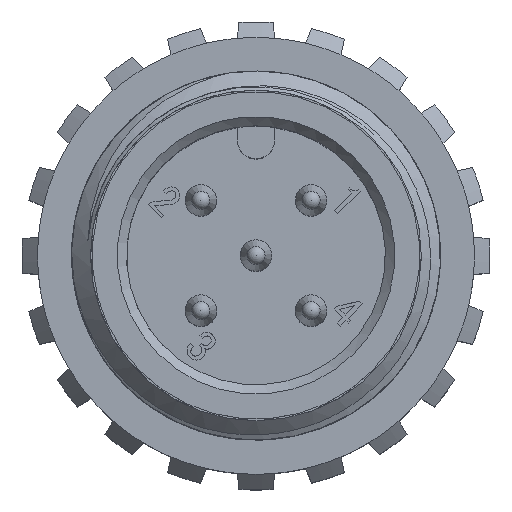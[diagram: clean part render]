
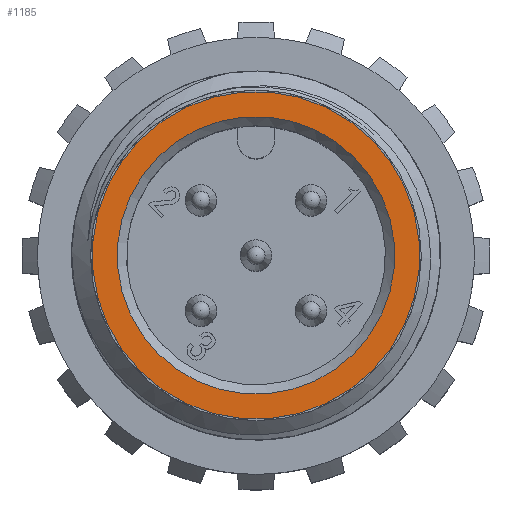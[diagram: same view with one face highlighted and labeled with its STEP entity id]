
A CAD part, top view. The second image highlights one B-rep face of the part: STEP entity #1185.
In plain terms, the highlighted planar face has unit normal (0, 0, 1).
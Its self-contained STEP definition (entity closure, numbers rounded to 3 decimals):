
#49 = DIRECTION ( 'NONE',  ( 0., 0., -1. ) ) ;
#79 = ORIENTED_EDGE ( 'NONE', *, *, #9153, .T. ) ;
#835 = CARTESIAN_POINT ( 'NONE',  ( 0., 0., 0. ) ) ;
#1185 = ADVANCED_FACE ( 'NONE', ( #6512, #9056 ), #11528, .F. ) ;
#2483 = CARTESIAN_POINT ( 'NONE',  ( -3.147, 3.147, 0. ) ) ;
#3110 = DIRECTION ( 'NONE',  ( -0.707, 0.707, 0. ) ) ;
#3618 = AXIS2_PLACEMENT_3D ( 'NONE', #5917, #49, #7608 ) ;
#5738 = EDGE_CURVE ( 'NONE', #11840, #11840, #11692, .T. ) ;
#5917 = CARTESIAN_POINT ( 'NONE',  ( 3.712, 3.712, 0. ) ) ;
#6512 = FACE_OUTER_BOUND ( 'NONE', #7424, .T. ) ;
#6817 = CIRCLE ( 'NONE', #11357, 5.25 ) ;
#7424 = EDGE_LOOP ( 'NONE', ( #79 ) ) ;
#7608 = DIRECTION ( 'NONE',  ( 0., -1., 0. ) ) ;
#7822 = DIRECTION ( 'NONE',  ( 0., 0., -1. ) ) ;
#8327 = ORIENTED_EDGE ( 'NONE', *, *, #5738, .T. ) ;
#8688 = VERTEX_POINT ( 'NONE', #10190 ) ;
#8831 = CARTESIAN_POINT ( 'NONE',  ( 0., 0., 0. ) ) ;
#9056 = FACE_BOUND ( 'NONE', #11345, .T. ) ;
#9153 = EDGE_CURVE ( 'NONE', #8688, #8688, #6817, .T. ) ;
#10190 = CARTESIAN_POINT ( 'NONE',  ( 3.712, -3.712, 0. ) ) ;
#10216 = DIRECTION ( 'NONE',  ( 0., 0., 1. ) ) ;
#11165 = AXIS2_PLACEMENT_3D ( 'NONE', #8831, #7822, #3110 ) ;
#11223 = DIRECTION ( 'NONE',  ( 0.707, -0.707, 0. ) ) ;
#11345 = EDGE_LOOP ( 'NONE', ( #8327 ) ) ;
#11357 = AXIS2_PLACEMENT_3D ( 'NONE', #835, #10216, #11223 ) ;
#11528 = PLANE ( 'NONE',  #3618 ) ;
#11692 = CIRCLE ( 'NONE', #11165, 4.45 ) ;
#11840 = VERTEX_POINT ( 'NONE', #2483 ) ;
